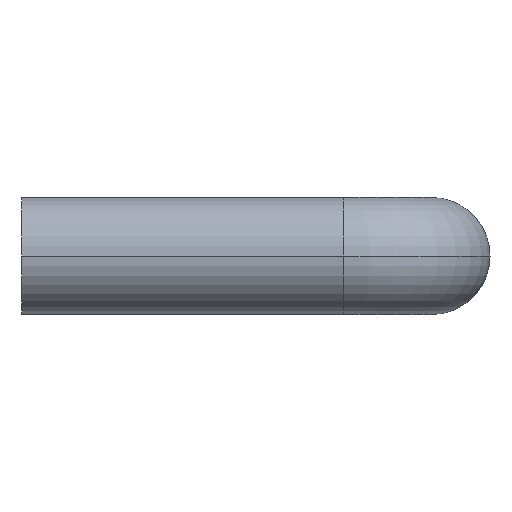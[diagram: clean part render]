
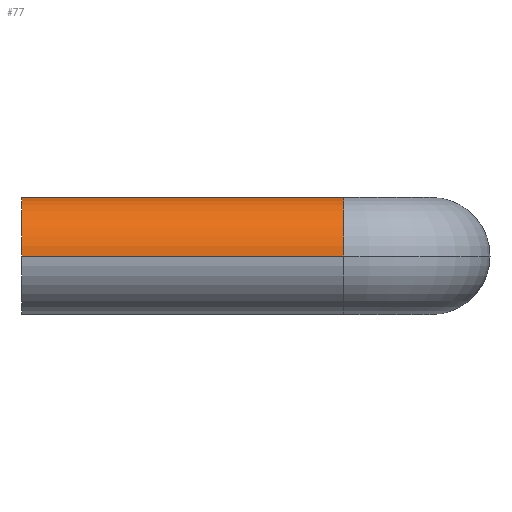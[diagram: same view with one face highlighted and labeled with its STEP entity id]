
A CAD part, left-side view. The second image highlights one B-rep face of the part: STEP entity #77.
In plain terms, the highlighted cylindrical face has radius 4 mm (diameter 8 mm), a partial arc.
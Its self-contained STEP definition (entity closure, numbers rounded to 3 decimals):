
#77 = ADVANCED_FACE( '', ( #98 ), #99, .T. );
#98 = FACE_OUTER_BOUND( '', #136, .T. );
#99 = CYLINDRICAL_SURFACE( '', #137, 4. );
#136 = EDGE_LOOP( '', ( #184, #185, #186, #187 ) );
#137 = AXIS2_PLACEMENT_3D( '', #188, #189, #190 );
#184 = ORIENTED_EDGE( '', *, *, #300, .F. );
#185 = ORIENTED_EDGE( '', *, *, #301, .F. );
#186 = ORIENTED_EDGE( '', *, *, #302, .F. );
#187 = ORIENTED_EDGE( '', *, *, #295, .T. );
#188 = CARTESIAN_POINT( '', ( 0., 0., 0. ) );
#189 = DIRECTION( '', ( 0., 1., 0. ) );
#190 = DIRECTION( '', ( 1., 0., 0. ) );
#295 = EDGE_CURVE( '', #327, #331, #333, .T. );
#300 = EDGE_CURVE( '', #342, #331, #343, .T. );
#301 = EDGE_CURVE( '', #344, #342, #345, .T. );
#302 = EDGE_CURVE( '', #327, #344, #346, .T. );
#327 = VERTEX_POINT( '', #381 );
#331 = VERTEX_POINT( '', #385 );
#333 = CIRCLE( '', #387, 4. );
#342 = VERTEX_POINT( '', #396 );
#343 = LINE( '', #397, #398 );
#344 = VERTEX_POINT( '', #399 );
#345 = CIRCLE( '', #400, 4. );
#346 = LINE( '', #401, #402 );
#381 = CARTESIAN_POINT( '', ( -4., -22., 0. ) );
#385 = CARTESIAN_POINT( '', ( 4., -22., 0. ) );
#387 = AXIS2_PLACEMENT_3D( '', #453, #454, #455 );
#396 = CARTESIAN_POINT( '', ( 4., 0., 0. ) );
#397 = CARTESIAN_POINT( '', ( 4., 0., 0. ) );
#398 = VECTOR( '', #468, 1. );
#399 = CARTESIAN_POINT( '', ( -4., 0., 0. ) );
#400 = AXIS2_PLACEMENT_3D( '', #469, #470, #471 );
#401 = CARTESIAN_POINT( '', ( -4., 0., 0. ) );
#402 = VECTOR( '', #472, 1. );
#453 = CARTESIAN_POINT( '', ( 0., -22., 0. ) );
#454 = DIRECTION( '', ( 0., 1., 0. ) );
#455 = DIRECTION( '', ( 1., 0., 0. ) );
#468 = DIRECTION( '', ( 0., -1., 0. ) );
#469 = CARTESIAN_POINT( '', ( 0., 0., 0. ) );
#470 = DIRECTION( '', ( 0., 1., 0. ) );
#471 = DIRECTION( '', ( 1., 0., 0. ) );
#472 = DIRECTION( '', ( 0., 1., 0. ) );
